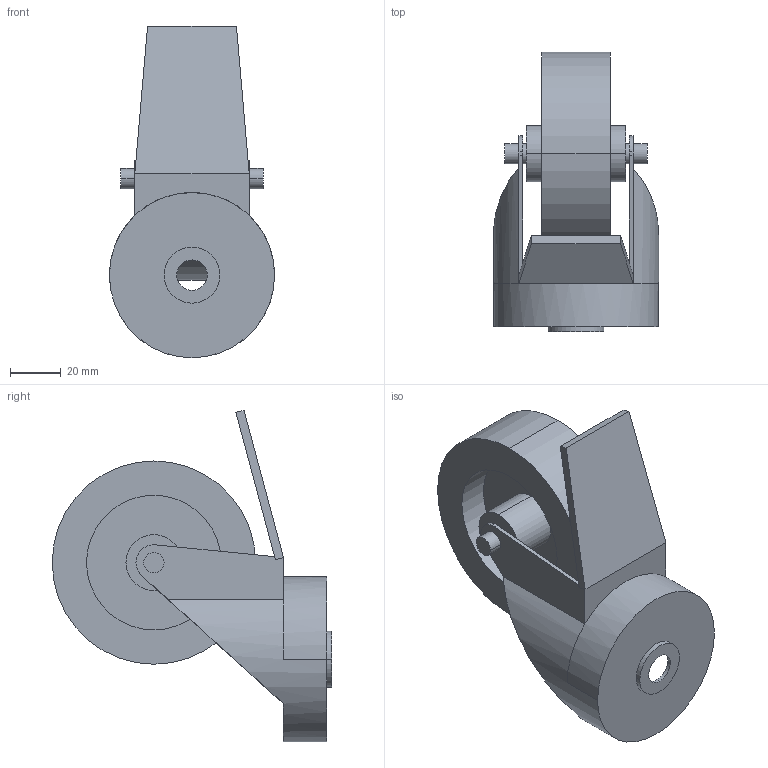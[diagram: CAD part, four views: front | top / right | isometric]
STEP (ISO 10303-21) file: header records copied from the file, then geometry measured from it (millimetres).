
FILE_DESCRIPTION((''),'2;1');
FILE_NAME('RUP080S_ASM','2002-12-27T',('Lipro doo'),('Lipro d.o.o.'),'PRO/ENGINEER BY PARAMETRIC TECHNOLOGY CORPORATION, 2001150','PRO/ENGINEER BY PARAMETRIC TECHNOLOGY CORPORATION, 2001150','');
FILE_SCHEMA(('CONFIG_CONTROL_DESIGN'));
Length unit declared in the file: millimetre
Products named in the file (3): RUP080_3; RUP080_1; RUP080S_ASM
Assembly tree (2 placements, depth 2):
  RUP080S_ASM
    RUP080_3
    RUP080_1
Bounding box: 65 x 110 x 130.46 mm (x, y, z)
Volume: 121639.9 mm3; surface area: 51721.7 mm2
Topology: 2 solids, 2 shells, 63 faces, 148 edges, 97 vertices
Faces by surface type: plane 33, cylinder 30
Entity records: 1952 total; most frequent: CARTESIAN_POINT 347, DIRECTION 341, ORIENTED_EDGE 296, EDGE_CURVE 148, AXIS2_PLACEMENT_3D 131, VERTEX_POINT 97, VECTOR 79, LINE 79
